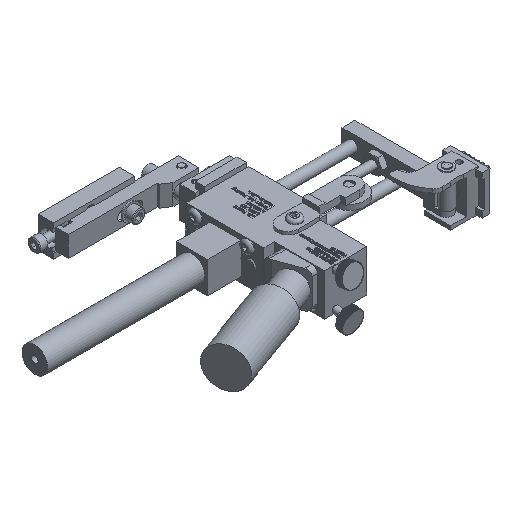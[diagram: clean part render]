
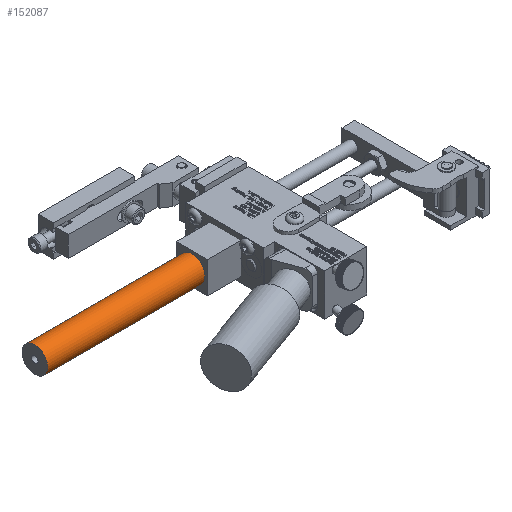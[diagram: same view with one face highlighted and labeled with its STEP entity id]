
A CAD part, isometric view. The second image highlights one B-rep face of the part: STEP entity #152087.
In plain terms, the highlighted cylindrical face has radius 7.747 mm (diameter 15.494 mm), a full revolution.
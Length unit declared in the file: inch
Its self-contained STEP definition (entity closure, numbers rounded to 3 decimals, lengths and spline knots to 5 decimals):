
#152060=CARTESIAN_POINT('',(0.2202,0.36387,0.375));
#152061=DIRECTION('',(1.0,0.,0.0));
#152062=DIRECTION('',(0.0,0.0,1.0));
#152063=AXIS2_PLACEMENT_3D('',#152060,#152061,#152062);
#152064=CYLINDRICAL_SURFACE('',#152063,0.305);
#152065=CARTESIAN_POINT('',(3.9752,0.36387,0.07));
#152066=VERTEX_POINT('',#152065);
#152067=CARTESIAN_POINT('',(3.9752,0.36387,0.375));
#152068=DIRECTION('',(-1.0,0.0,0.0));
#152069=DIRECTION('',(0.0,0.0,1.0));
#152070=AXIS2_PLACEMENT_3D('',#152067,#152068,#152069);
#152071=CIRCLE('',#152070,0.305);
#152072=EDGE_CURVE('',#152066,#152066,#152071,.T.);
#152073=ORIENTED_EDGE('',*,*,#152072,.T.);
#152074=EDGE_LOOP('',(#152073));
#152075=FACE_OUTER_BOUND('',#152074,.T.);
#152076=CARTESIAN_POINT('',(0.2202,0.36387,0.07));
#152077=VERTEX_POINT('',#152076);
#152078=CARTESIAN_POINT('',(0.2202,0.36387,0.375));
#152079=DIRECTION('',(-1.0,0.0,0.0));
#152080=DIRECTION('',(0.0,0.0,1.0));
#152081=AXIS2_PLACEMENT_3D('',#152078,#152079,#152080);
#152082=CIRCLE('',#152081,0.305);
#152083=EDGE_CURVE('',#152077,#152077,#152082,.T.);
#152084=ORIENTED_EDGE('',*,*,#152083,.F.);
#152085=EDGE_LOOP('',(#152084));
#152086=FACE_BOUND('',#152085,.T.);
#152087=ADVANCED_FACE('',(#152075,#152086),#152064,.T.);
